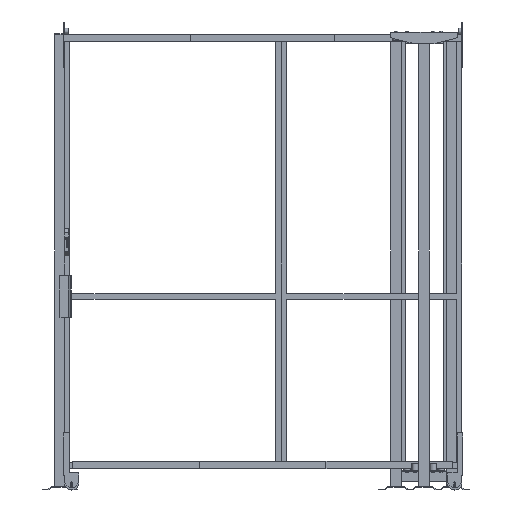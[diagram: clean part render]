
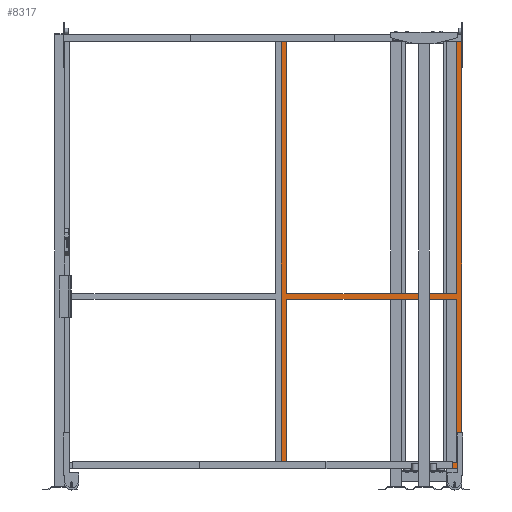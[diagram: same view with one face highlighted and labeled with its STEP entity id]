
A CAD part, front view. The second image highlights one B-rep face of the part: STEP entity #8317.
In plain terms, the highlighted planar face has unit normal (0, -1, 0).
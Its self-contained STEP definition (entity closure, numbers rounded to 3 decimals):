
#953=FACE_BOUND('',#1412,.T.);
#954=FACE_BOUND('',#1413,.T.);
#1000=FACE_OUTER_BOUND('',#1411,.T.);
#1411=EDGE_LOOP('',(#5921,#5922,#5923,#5924));
#1412=EDGE_LOOP('',(#5925,#5926,#5927,#5928));
#1413=EDGE_LOOP('',(#5929,#5930,#5931,#5932));
#1864=LINE('',#11587,#2979);
#1870=LINE('',#11599,#2985);
#1871=LINE('',#11602,#2986);
#1874=LINE('',#11609,#2989);
#1875=LINE('',#11611,#2990);
#1876=LINE('',#11613,#2991);
#1877=LINE('',#11614,#2992);
#1878=LINE('',#11616,#2993);
#1879=LINE('',#11618,#2994);
#1880=LINE('',#11619,#2995);
#1881=LINE('',#11621,#2996);
#1882=LINE('',#11622,#2997);
#2979=VECTOR('',#9338,1.);
#2985=VECTOR('',#9346,1.);
#2986=VECTOR('',#9349,1.);
#2989=VECTOR('',#9354,1.);
#2990=VECTOR('',#9355,1.);
#2991=VECTOR('',#9356,1.);
#2992=VECTOR('',#9357,1.);
#2993=VECTOR('',#9358,1.);
#2994=VECTOR('',#9359,1.);
#2995=VECTOR('',#9360,1.);
#2996=VECTOR('',#9361,1.);
#2997=VECTOR('',#9362,1.);
#4093=VERTEX_POINT('',#11583);
#4095=VERTEX_POINT('',#11586);
#4098=VERTEX_POINT('',#11593);
#4100=VERTEX_POINT('',#11597);
#4101=VERTEX_POINT('',#11601);
#4103=VERTEX_POINT('',#11607);
#4104=VERTEX_POINT('',#11608);
#4105=VERTEX_POINT('',#11610);
#4106=VERTEX_POINT('',#11612);
#4107=VERTEX_POINT('',#11615);
#4108=VERTEX_POINT('',#11617);
#4109=VERTEX_POINT('',#11620);
#4844=EDGE_CURVE('',#4093,#4095,#1864,.T.);
#4850=EDGE_CURVE('',#4100,#4098,#1870,.T.);
#4851=EDGE_CURVE('',#4101,#4098,#1871,.T.);
#4854=EDGE_CURVE('',#4103,#4104,#1874,.T.);
#4855=EDGE_CURVE('',#4105,#4104,#1875,.T.);
#4856=EDGE_CURVE('',#4106,#4105,#1876,.T.);
#4857=EDGE_CURVE('',#4103,#4106,#1877,.T.);
#4858=EDGE_CURVE('',#4093,#4107,#1878,.T.);
#4859=EDGE_CURVE('',#4107,#4108,#1879,.T.);
#4860=EDGE_CURVE('',#4108,#4095,#1880,.T.);
#4861=EDGE_CURVE('',#4100,#4109,#1881,.T.);
#4862=EDGE_CURVE('',#4109,#4101,#1882,.T.);
#5921=ORIENTED_EDGE('',*,*,#4854,.T.);
#5922=ORIENTED_EDGE('',*,*,#4855,.F.);
#5923=ORIENTED_EDGE('',*,*,#4856,.F.);
#5924=ORIENTED_EDGE('',*,*,#4857,.F.);
#5925=ORIENTED_EDGE('',*,*,#4858,.T.);
#5926=ORIENTED_EDGE('',*,*,#4859,.T.);
#5927=ORIENTED_EDGE('',*,*,#4860,.T.);
#5928=ORIENTED_EDGE('',*,*,#4844,.F.);
#5929=ORIENTED_EDGE('',*,*,#4850,.F.);
#5930=ORIENTED_EDGE('',*,*,#4861,.T.);
#5931=ORIENTED_EDGE('',*,*,#4862,.T.);
#5932=ORIENTED_EDGE('',*,*,#4851,.T.);
#7946=PLANE('',#8769);
#8317=ADVANCED_FACE('',(#1000,#953,#954),#7946,.F.);
#8769=AXIS2_PLACEMENT_3D('',#11606,#9352,#9353);
#9338=DIRECTION('',(1.,0.,0.));
#9346=DIRECTION('',(-1.,0.,0.));
#9349=DIRECTION('',(0.,0.,1.));
#9352=DIRECTION('center_axis',(0.,1.,0.));
#9353=DIRECTION('ref_axis',(0.,0.,1.));
#9354=DIRECTION('',(0.,0.,-1.));
#9355=DIRECTION('',(-1.,0.,0.));
#9356=DIRECTION('',(0.,0.,-1.));
#9357=DIRECTION('',(1.,0.,0.));
#9358=DIRECTION('',(0.,0.,1.));
#9359=DIRECTION('',(1.,0.,0.));
#9360=DIRECTION('',(0.,0.,-1.));
#9361=DIRECTION('',(0.,0.,-1.));
#9362=DIRECTION('',(-1.,0.,0.));
#11583=CARTESIAN_POINT('',(30.,0.,965.));
#11586=CARTESIAN_POINT('',(970.,0.,965.));
#11587=CARTESIAN_POINT('',(500.,0.,965.));
#11593=CARTESIAN_POINT('',(30.,0.,935.));
#11597=CARTESIAN_POINT('',(970.,0.,935.));
#11599=CARTESIAN_POINT('',(500.,0.,935.));
#11601=CARTESIAN_POINT('',(30.,0.,30.));
#11602=CARTESIAN_POINT('',(30.,0.,1200.));
#11606=CARTESIAN_POINT('Origin',(500.,0.,1200.));
#11607=CARTESIAN_POINT('',(0.,0.,2400.));
#11608=CARTESIAN_POINT('',(0.,0.,0.));
#11609=CARTESIAN_POINT('',(0.,0.,1200.));
#11610=CARTESIAN_POINT('',(1000.,0.,0.));
#11611=CARTESIAN_POINT('',(500.,0.,0.));
#11612=CARTESIAN_POINT('',(1000.,0.,2400.));
#11613=CARTESIAN_POINT('',(1000.,0.,1200.));
#11614=CARTESIAN_POINT('',(500.,0.,2400.));
#11615=CARTESIAN_POINT('',(30.,0.,2370.));
#11616=CARTESIAN_POINT('',(30.,0.,1200.));
#11617=CARTESIAN_POINT('',(970.,0.,2370.));
#11618=CARTESIAN_POINT('',(500.,0.,2370.));
#11619=CARTESIAN_POINT('',(970.,0.,1200.));
#11620=CARTESIAN_POINT('',(970.,0.,30.));
#11621=CARTESIAN_POINT('',(970.,0.,1200.));
#11622=CARTESIAN_POINT('',(500.,0.,30.));
